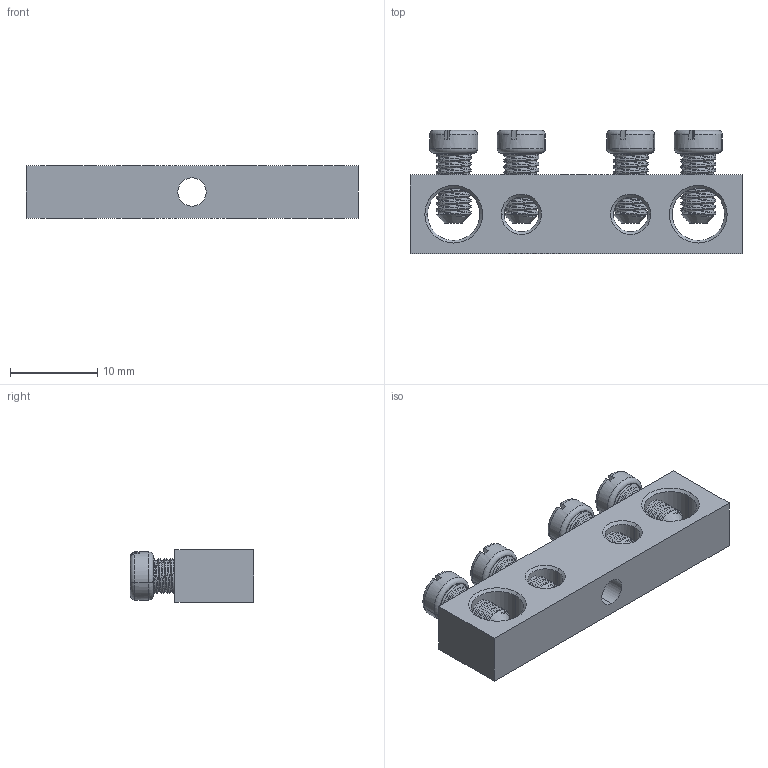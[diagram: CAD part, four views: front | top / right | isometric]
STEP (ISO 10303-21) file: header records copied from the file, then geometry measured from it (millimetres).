
FILE_DESCRIPTION (( 'STEP AP214' ), '1' );
FILE_NAME ('277974 Optikit BB-PEN-S-4-6õ9-1.STEP', '2020-02-06T13:07:38', ( '' ), ( '' ), 'SwSTEP 2.0', 'SolidWorks 2018', '' );
FILE_SCHEMA (( 'AUTOMOTIVE_DESIGN' ));
Length unit declared in the file: millimetre
Products named in the file (3): Âèíò ì4; Øèíà 6õ9 4 1; 277974 Optikit BB-PEN-S-4-6õ9-1
Assembly tree (5 placements, depth 2):
  277974 Optikit BB-PEN-S-4-6õ9-1
    Øèíà 6õ9 4 1
    Âèíò ì4  x4
Bounding box: 38 x 14.1 x 6 mm (x, y, z)
Volume: 1957.9 mm3; surface area: 2446.4 mm2
Topology: 5 solids, 5 shells, 320 faces, 886 edges, 572 vertices
Faces by surface type: plane 114, cylinder 110, cone 52, torus 28, bspline 16
Entity records: 5755 total; most frequent: CARTESIAN_POINT 2920, ORIENTED_EDGE 586, DIRECTION 508, EDGE_CURVE 293, AXIS2_PLACEMENT_3D 195, VERTEX_POINT 188, EDGE_LOOP 129, VECTOR 118
